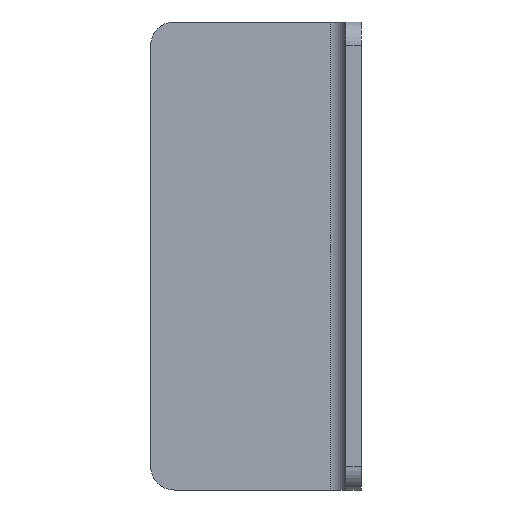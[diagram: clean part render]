
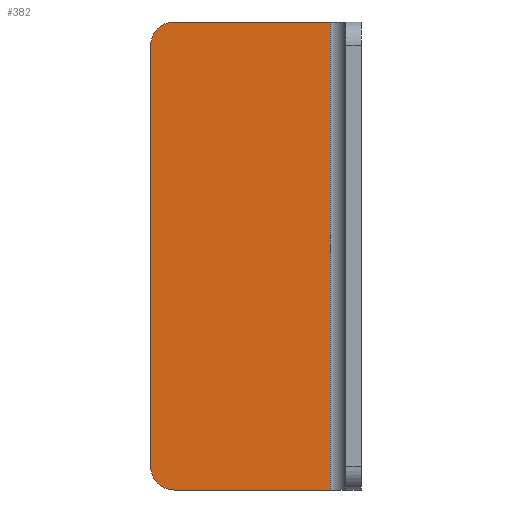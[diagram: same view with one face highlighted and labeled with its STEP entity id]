
A CAD part, front view. The second image highlights one B-rep face of the part: STEP entity #382.
In plain terms, the highlighted planar face has unit normal (0, -1, 0).
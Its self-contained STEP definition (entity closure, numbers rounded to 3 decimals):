
#22 = EDGE_CURVE ( 'NONE', #267, #325, #606, .T. ) ;
#25 = ORIENTED_EDGE ( 'NONE', *, *, #670, .F. ) ;
#34 = ORIENTED_EDGE ( 'NONE', *, *, #304, .T. ) ;
#41 = DIRECTION ( 'NONE',  ( -1., 0., 0. ) ) ;
#42 = VERTEX_POINT ( 'NONE', #615 ) ;
#48 = VECTOR ( 'NONE', #89, 1000. ) ;
#49 = DIRECTION ( 'NONE',  ( -1., 0., 0. ) ) ;
#54 = DIRECTION ( 'NONE',  ( -1., 0., 0. ) ) ;
#62 = DIRECTION ( 'NONE',  ( 0., 0., 1. ) ) ;
#79 = ORIENTED_EDGE ( 'NONE', *, *, #653, .F. ) ;
#85 = CARTESIAN_POINT ( 'NONE',  ( -24., 18., -30. ) ) ;
#89 = DIRECTION ( 'NONE',  ( -1., 0., 0. ) ) ;
#98 = CARTESIAN_POINT ( 'NONE',  ( -2., 18., 30. ) ) ;
#132 = CARTESIAN_POINT ( 'NONE',  ( -4., 18., 30. ) ) ;
#139 = CARTESIAN_POINT ( 'NONE',  ( -2., 18., -30. ) ) ;
#167 = DIRECTION ( 'NONE',  ( 0., -1., 0. ) ) ;
#170 = CARTESIAN_POINT ( 'NONE',  ( -4., 18., 30. ) ) ;
#185 = VERTEX_POINT ( 'NONE', #683 ) ;
#218 = LINE ( 'NONE', #98, #414 ) ;
#237 = AXIS2_PLACEMENT_3D ( 'NONE', #342, #167, #658 ) ;
#254 = LINE ( 'NONE', #681, #570 ) ;
#267 = VERTEX_POINT ( 'NONE', #281 ) ;
#281 = CARTESIAN_POINT ( 'NONE',  ( -4., 18., -30. ) ) ;
#289 = EDGE_CURVE ( 'NONE', #325, #395, #218, .T. ) ;
#294 = DIRECTION ( 'NONE',  ( 0., 1., 0. ) ) ;
#304 = EDGE_CURVE ( 'NONE', #395, #185, #535, .T. ) ;
#307 = CARTESIAN_POINT ( 'NONE',  ( -2., 18., -30. ) ) ;
#315 = LINE ( 'NONE', #139, #48 ) ;
#325 = VERTEX_POINT ( 'NONE', #170 ) ;
#342 = CARTESIAN_POINT ( 'NONE',  ( -24., 18., 27. ) ) ;
#373 = VECTOR ( 'NONE', #62, 1000. ) ;
#375 = EDGE_CURVE ( 'NONE', #42, #573, #559, .T. ) ;
#382 = ADVANCED_FACE ( 'NONE', ( #433 ), #484, .F. ) ;
#395 = VERTEX_POINT ( 'NONE', #614 ) ;
#414 = VECTOR ( 'NONE', #49, 1000. ) ;
#433 = FACE_OUTER_BOUND ( 'NONE', #561, .T. ) ;
#484 = PLANE ( 'NONE',  #659 ) ;
#502 = ORIENTED_EDGE ( 'NONE', *, *, #22, .T. ) ;
#504 = DIRECTION ( 'NONE',  ( 0., 0., 1. ) ) ;
#531 = AXIS2_PLACEMENT_3D ( 'NONE', #645, #587, #41 ) ;
#535 = CIRCLE ( 'NONE', #237, 3. ) ;
#559 = CIRCLE ( 'NONE', #531, 3. ) ;
#561 = EDGE_LOOP ( 'NONE', ( #660, #34, #25, #727, #79, #502 ) ) ;
#570 = VECTOR ( 'NONE', #504, 1000. ) ;
#573 = VERTEX_POINT ( 'NONE', #85 ) ;
#587 = DIRECTION ( 'NONE',  ( 0., -1., 0. ) ) ;
#606 = LINE ( 'NONE', #132, #373 ) ;
#614 = CARTESIAN_POINT ( 'NONE',  ( -24., 18., 30. ) ) ;
#615 = CARTESIAN_POINT ( 'NONE',  ( -27., 18., -27. ) ) ;
#645 = CARTESIAN_POINT ( 'NONE',  ( -24., 18., -27. ) ) ;
#653 = EDGE_CURVE ( 'NONE', #267, #573, #315, .T. ) ;
#658 = DIRECTION ( 'NONE',  ( -1., 0., 0. ) ) ;
#659 = AXIS2_PLACEMENT_3D ( 'NONE', #307, #294, #54 ) ;
#660 = ORIENTED_EDGE ( 'NONE', *, *, #289, .T. ) ;
#670 = EDGE_CURVE ( 'NONE', #42, #185, #254, .T. ) ;
#681 = CARTESIAN_POINT ( 'NONE',  ( -27., 18., -30. ) ) ;
#683 = CARTESIAN_POINT ( 'NONE',  ( -27., 18., 27. ) ) ;
#727 = ORIENTED_EDGE ( 'NONE', *, *, #375, .T. ) ;
